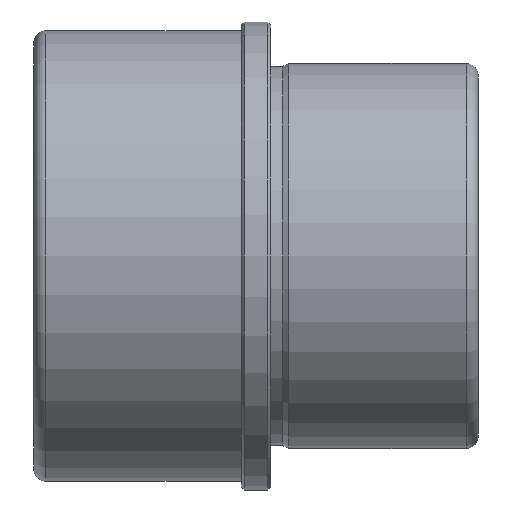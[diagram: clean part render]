
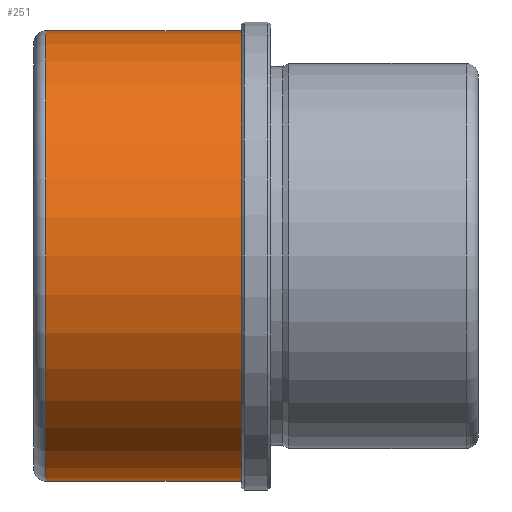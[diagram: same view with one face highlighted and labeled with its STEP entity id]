
A CAD part, front view. The second image highlights one B-rep face of the part: STEP entity #251.
In plain terms, the highlighted cylindrical face has radius 38 mm (diameter 76 mm), a full revolution.
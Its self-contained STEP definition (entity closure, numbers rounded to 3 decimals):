
#27=LINE('',#453,#35);
#35=VECTOR('',#377,38.);
#43=CYLINDRICAL_SURFACE('',#304,38.);
#54=FACE_OUTER_BOUND('',#72,.T.);
#72=EDGE_LOOP('',(#193,#194,#195,#196,#197));
#96=CIRCLE('',#301,38.);
#97=CIRCLE('',#302,38.);
#99=CIRCLE('',#305,38.);
#117=VERTEX_POINT('',#445);
#118=VERTEX_POINT('',#446);
#119=VERTEX_POINT('',#451);
#142=EDGE_CURVE('',#117,#118,#96,.T.);
#143=EDGE_CURVE('',#118,#117,#97,.T.);
#145=EDGE_CURVE('',#119,#119,#99,.T.);
#146=EDGE_CURVE('',#119,#118,#27,.T.);
#193=ORIENTED_EDGE('',*,*,#145,.F.);
#194=ORIENTED_EDGE('',*,*,#146,.T.);
#195=ORIENTED_EDGE('',*,*,#142,.F.);
#196=ORIENTED_EDGE('',*,*,#143,.F.);
#197=ORIENTED_EDGE('',*,*,#146,.F.);
#251=ADVANCED_FACE('',(#54),#43,.T.);
#301=AXIS2_PLACEMENT_3D('',#447,#367,#368);
#302=AXIS2_PLACEMENT_3D('',#448,#369,#370);
#304=AXIS2_PLACEMENT_3D('',#450,#373,#374);
#305=AXIS2_PLACEMENT_3D('',#452,#375,#376);
#367=DIRECTION('center_axis',(-1.,0.,0.));
#368=DIRECTION('ref_axis',(0.,-1.,0.));
#369=DIRECTION('center_axis',(-1.,0.,0.));
#370=DIRECTION('ref_axis',(0.,-1.,0.));
#373=DIRECTION('center_axis',(1.,0.,0.));
#374=DIRECTION('ref_axis',(0.,1.,0.));
#375=DIRECTION('center_axis',(1.,0.,0.));
#376=DIRECTION('ref_axis',(0.,0.,-1.));
#377=DIRECTION('',(-1.,0.,0.));
#445=CARTESIAN_POINT('',(2.,0.,38.));
#446=CARTESIAN_POINT('',(2.,-38.,0.));
#447=CARTESIAN_POINT('Origin',(2.,0.,0.));
#448=CARTESIAN_POINT('Origin',(2.,0.,0.));
#450=CARTESIAN_POINT('Origin',(17.5,0.,0.));
#451=CARTESIAN_POINT('',(35.,-38.,0.));
#452=CARTESIAN_POINT('Origin',(35.,0.,0.));
#453=CARTESIAN_POINT('',(17.5,-38.,0.));
